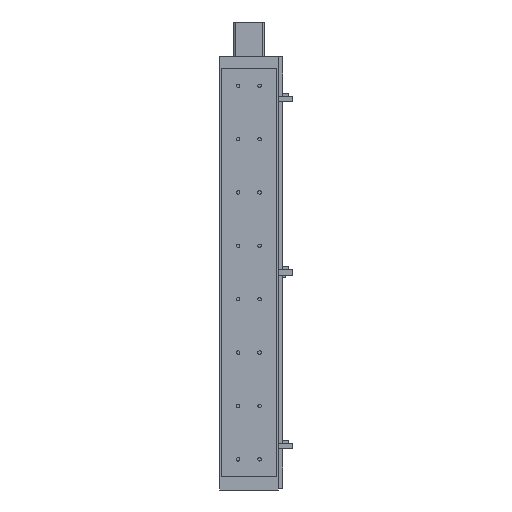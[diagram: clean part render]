
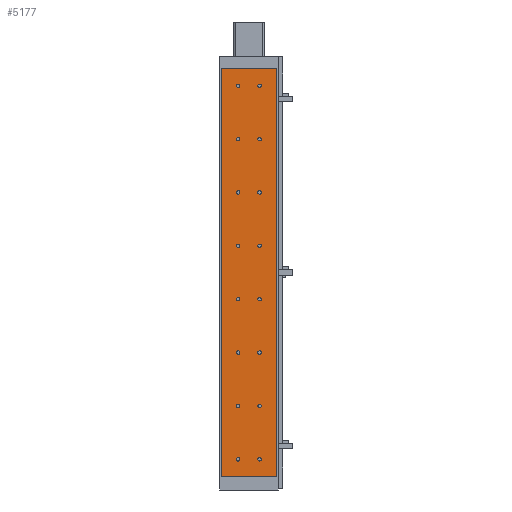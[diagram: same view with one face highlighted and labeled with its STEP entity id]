
A CAD part, front view. The second image highlights one B-rep face of the part: STEP entity #5177.
In plain terms, the highlighted planar face has unit normal (0, -1, 0).
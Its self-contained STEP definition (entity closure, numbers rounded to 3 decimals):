
#105=CARTESIAN_POINT('',(-23.25,0.,57.5));
#106=VERTEX_POINT('',#105);
#107=CARTESIAN_POINT('',(-20.,0.0,57.5));
#108=DIRECTION('',(0.0,1.0,0.0));
#109=DIRECTION('',(1.0,0.0,0.0));
#110=AXIS2_PLACEMENT_3D('',#107,#108,#109);
#111=CIRCLE('',#110,3.25);
#112=EDGE_CURVE('',#106,#106,#111,.T.);
#213=CARTESIAN_POINT('',(16.75,0.,57.5));
#214=VERTEX_POINT('',#213);
#215=CARTESIAN_POINT('',(20.,0.0,57.5));
#216=DIRECTION('',(0.0,1.0,0.0));
#217=DIRECTION('',(1.0,0.0,0.0));
#218=AXIS2_PLACEMENT_3D('',#215,#216,#217);
#219=CIRCLE('',#218,3.25);
#220=EDGE_CURVE('',#214,#214,#219,.T.);
#259=CARTESIAN_POINT('',(-23.25,0.,157.5));
#260=VERTEX_POINT('',#259);
#261=CARTESIAN_POINT('',(-20.,0.0,157.5));
#262=DIRECTION('',(0.0,1.0,0.0));
#263=DIRECTION('',(1.0,0.0,0.0));
#264=AXIS2_PLACEMENT_3D('',#261,#262,#263);
#265=CIRCLE('',#264,3.25);
#266=EDGE_CURVE('',#260,#260,#265,.T.);
#367=CARTESIAN_POINT('',(16.75,0.,157.5));
#368=VERTEX_POINT('',#367);
#369=CARTESIAN_POINT('',(20.,0.0,157.5));
#370=DIRECTION('',(0.0,1.0,0.0));
#371=DIRECTION('',(1.0,0.0,0.0));
#372=AXIS2_PLACEMENT_3D('',#369,#370,#371);
#373=CIRCLE('',#372,3.25);
#374=EDGE_CURVE('',#368,#368,#373,.T.);
#444=CARTESIAN_POINT('',(16.75,0.,757.5));
#445=VERTEX_POINT('',#444);
#446=CARTESIAN_POINT('',(20.,0.0,757.5));
#447=DIRECTION('',(0.0,1.0,0.0));
#448=DIRECTION('',(1.0,0.0,0.0));
#449=AXIS2_PLACEMENT_3D('',#446,#447,#448);
#450=CIRCLE('',#449,3.25);
#451=EDGE_CURVE('',#445,#445,#450,.T.);
#490=CARTESIAN_POINT('',(-23.25,0.,757.5));
#491=VERTEX_POINT('',#490);
#492=CARTESIAN_POINT('',(-20.,0.0,757.5));
#493=DIRECTION('',(0.0,1.0,0.0));
#494=DIRECTION('',(1.0,0.0,0.0));
#495=AXIS2_PLACEMENT_3D('',#492,#493,#494);
#496=CIRCLE('',#495,3.25);
#497=EDGE_CURVE('',#491,#491,#496,.T.);
#567=CARTESIAN_POINT('',(-23.25,0.,557.5));
#568=VERTEX_POINT('',#567);
#569=CARTESIAN_POINT('',(-20.,0.0,557.5));
#570=DIRECTION('',(0.0,1.0,0.0));
#571=DIRECTION('',(1.0,0.0,0.0));
#572=AXIS2_PLACEMENT_3D('',#569,#570,#571);
#573=CIRCLE('',#572,3.25);
#574=EDGE_CURVE('',#568,#568,#573,.T.);
#675=CARTESIAN_POINT('',(16.75,0.,557.5));
#676=VERTEX_POINT('',#675);
#677=CARTESIAN_POINT('',(20.,0.0,557.5));
#678=DIRECTION('',(0.0,1.0,0.0));
#679=DIRECTION('',(1.0,0.0,0.0));
#680=AXIS2_PLACEMENT_3D('',#677,#678,#679);
#681=CIRCLE('',#680,3.25);
#682=EDGE_CURVE('',#676,#676,#681,.T.);
#721=CARTESIAN_POINT('',(-23.25,0.,657.5));
#722=VERTEX_POINT('',#721);
#723=CARTESIAN_POINT('',(-20.,0.0,657.5));
#724=DIRECTION('',(0.0,1.0,0.0));
#725=DIRECTION('',(1.0,0.0,0.0));
#726=AXIS2_PLACEMENT_3D('',#723,#724,#725);
#727=CIRCLE('',#726,3.25);
#728=EDGE_CURVE('',#722,#722,#727,.T.);
#829=CARTESIAN_POINT('',(16.75,0.,657.5));
#830=VERTEX_POINT('',#829);
#831=CARTESIAN_POINT('',(20.,0.0,657.5));
#832=DIRECTION('',(0.0,1.0,0.0));
#833=DIRECTION('',(1.0,0.0,0.0));
#834=AXIS2_PLACEMENT_3D('',#831,#832,#833);
#835=CIRCLE('',#834,3.25);
#836=EDGE_CURVE('',#830,#830,#835,.T.);
#906=CARTESIAN_POINT('',(16.75,0.,257.5));
#907=VERTEX_POINT('',#906);
#908=CARTESIAN_POINT('',(20.,0.0,257.5));
#909=DIRECTION('',(0.0,1.0,0.0));
#910=DIRECTION('',(1.0,0.0,0.0));
#911=AXIS2_PLACEMENT_3D('',#908,#909,#910);
#912=CIRCLE('',#911,3.25);
#913=EDGE_CURVE('',#907,#907,#912,.T.);
#952=CARTESIAN_POINT('',(-23.25,0.,257.5));
#953=VERTEX_POINT('',#952);
#954=CARTESIAN_POINT('',(-20.,0.0,257.5));
#955=DIRECTION('',(0.0,1.0,0.0));
#956=DIRECTION('',(1.0,0.0,0.0));
#957=AXIS2_PLACEMENT_3D('',#954,#955,#956);
#958=CIRCLE('',#957,3.25);
#959=EDGE_CURVE('',#953,#953,#958,.T.);
#1060=CARTESIAN_POINT('',(16.75,0.,457.5));
#1061=VERTEX_POINT('',#1060);
#1062=CARTESIAN_POINT('',(20.,0.0,457.5));
#1063=DIRECTION('',(0.0,1.0,0.0));
#1064=DIRECTION('',(1.0,0.0,0.0));
#1065=AXIS2_PLACEMENT_3D('',#1062,#1063,#1064);
#1066=CIRCLE('',#1065,3.25);
#1067=EDGE_CURVE('',#1061,#1061,#1066,.T.);
#1137=CARTESIAN_POINT('',(-23.25,0.,457.5));
#1138=VERTEX_POINT('',#1137);
#1139=CARTESIAN_POINT('',(-20.,0.0,457.5));
#1140=DIRECTION('',(0.0,1.0,0.0));
#1141=DIRECTION('',(1.0,0.0,0.0));
#1142=AXIS2_PLACEMENT_3D('',#1139,#1140,#1141);
#1143=CIRCLE('',#1142,3.25);
#1144=EDGE_CURVE('',#1138,#1138,#1143,.T.);
#1214=CARTESIAN_POINT('',(16.75,0.,357.5));
#1215=VERTEX_POINT('',#1214);
#1216=CARTESIAN_POINT('',(20.,0.0,357.5));
#1217=DIRECTION('',(0.0,1.0,0.0));
#1218=DIRECTION('',(1.0,0.0,0.0));
#1219=AXIS2_PLACEMENT_3D('',#1216,#1217,#1218);
#1220=CIRCLE('',#1219,3.25);
#1221=EDGE_CURVE('',#1215,#1215,#1220,.T.);
#1291=CARTESIAN_POINT('',(-23.25,0.,357.5));
#1292=VERTEX_POINT('',#1291);
#1293=CARTESIAN_POINT('',(-20.,0.0,357.5));
#1294=DIRECTION('',(0.0,1.0,0.0));
#1295=DIRECTION('',(1.0,0.0,0.0));
#1296=AXIS2_PLACEMENT_3D('',#1293,#1294,#1295);
#1297=CIRCLE('',#1296,3.25);
#1298=EDGE_CURVE('',#1292,#1292,#1297,.T.);
#5050=CARTESIAN_POINT('',(52.,0.,25.));
#5051=VERTEX_POINT('',#5050);
#5058=CARTESIAN_POINT('',(-52.0,0.,25.));
#5059=VERTEX_POINT('',#5058);
#5060=CARTESIAN_POINT('',(-52.0,0.,25.));
#5061=DIRECTION('',(1.0,0.0,0.0));
#5062=VECTOR('',#5061,104.0);
#5063=LINE('',#5060,#5062);
#5064=EDGE_CURVE('',#5059,#5051,#5063,.T.);
#5081=CARTESIAN_POINT('',(-52.,0.,790.0));
#5082=VERTEX_POINT('',#5081);
#5083=CARTESIAN_POINT('',(-52.0,0.,25.));
#5084=DIRECTION('',(0.0,0.0,1.0));
#5085=VECTOR('',#5084,765.0);
#5086=LINE('',#5083,#5085);
#5087=EDGE_CURVE('',#5059,#5082,#5086,.T.);
#5106=CARTESIAN_POINT('',(52.0,0.,0.0));
#5107=DIRECTION('',(0.0,-1.0,0.0));
#5108=DIRECTION('',(0.0,0.0,-1.0));
#5109=AXIS2_PLACEMENT_3D('',#5106,#5107,#5108);
#5110=PLANE('',#5109);
#5111=ORIENTED_EDGE('',*,*,#5064,.T.);
#5112=CARTESIAN_POINT('',(52.,0.,790.0));
#5113=VERTEX_POINT('',#5112);
#5114=CARTESIAN_POINT('',(52.,0.,25.));
#5115=DIRECTION('',(0.0,0.0,1.0));
#5116=VECTOR('',#5115,765.0);
#5117=LINE('',#5114,#5116);
#5118=EDGE_CURVE('',#5051,#5113,#5117,.T.);
#5119=ORIENTED_EDGE('',*,*,#5118,.T.);
#5120=CARTESIAN_POINT('',(52.,0.,790.0));
#5121=DIRECTION('',(-1.0,0.0,0.0));
#5122=VECTOR('',#5121,104.);
#5123=LINE('',#5120,#5122);
#5124=EDGE_CURVE('',#5113,#5082,#5123,.T.);
#5125=ORIENTED_EDGE('',*,*,#5124,.T.);
#5126=ORIENTED_EDGE('',*,*,#5087,.F.);
#5127=EDGE_LOOP('',(#5111,#5119,#5125,#5126));
#5128=FACE_OUTER_BOUND('',#5127,.T.);
#5129=ORIENTED_EDGE('',*,*,#112,.T.);
#5130=EDGE_LOOP('',(#5129));
#5131=FACE_BOUND('',#5130,.T.);
#5132=ORIENTED_EDGE('',*,*,#220,.T.);
#5133=EDGE_LOOP('',(#5132));
#5134=FACE_BOUND('',#5133,.T.);
#5135=ORIENTED_EDGE('',*,*,#266,.T.);
#5136=EDGE_LOOP('',(#5135));
#5137=FACE_BOUND('',#5136,.T.);
#5138=ORIENTED_EDGE('',*,*,#374,.T.);
#5139=EDGE_LOOP('',(#5138));
#5140=FACE_BOUND('',#5139,.T.);
#5141=ORIENTED_EDGE('',*,*,#451,.T.);
#5142=EDGE_LOOP('',(#5141));
#5143=FACE_BOUND('',#5142,.T.);
#5144=ORIENTED_EDGE('',*,*,#497,.T.);
#5145=EDGE_LOOP('',(#5144));
#5146=FACE_BOUND('',#5145,.T.);
#5147=ORIENTED_EDGE('',*,*,#574,.T.);
#5148=EDGE_LOOP('',(#5147));
#5149=FACE_BOUND('',#5148,.T.);
#5150=ORIENTED_EDGE('',*,*,#682,.T.);
#5151=EDGE_LOOP('',(#5150));
#5152=FACE_BOUND('',#5151,.T.);
#5153=ORIENTED_EDGE('',*,*,#728,.T.);
#5154=EDGE_LOOP('',(#5153));
#5155=FACE_BOUND('',#5154,.T.);
#5156=ORIENTED_EDGE('',*,*,#836,.T.);
#5157=EDGE_LOOP('',(#5156));
#5158=FACE_BOUND('',#5157,.T.);
#5159=ORIENTED_EDGE('',*,*,#913,.T.);
#5160=EDGE_LOOP('',(#5159));
#5161=FACE_BOUND('',#5160,.T.);
#5162=ORIENTED_EDGE('',*,*,#959,.T.);
#5163=EDGE_LOOP('',(#5162));
#5164=FACE_BOUND('',#5163,.T.);
#5165=ORIENTED_EDGE('',*,*,#1067,.T.);
#5166=EDGE_LOOP('',(#5165));
#5167=FACE_BOUND('',#5166,.T.);
#5168=ORIENTED_EDGE('',*,*,#1144,.T.);
#5169=EDGE_LOOP('',(#5168));
#5170=FACE_BOUND('',#5169,.T.);
#5171=ORIENTED_EDGE('',*,*,#1221,.T.);
#5172=EDGE_LOOP('',(#5171));
#5173=FACE_BOUND('',#5172,.T.);
#5174=ORIENTED_EDGE('',*,*,#1298,.T.);
#5175=EDGE_LOOP('',(#5174));
#5176=FACE_BOUND('',#5175,.T.);
#5177=ADVANCED_FACE('',(#5128,#5131,#5134,#5137,#5140,#5143,#5146,#5149,#5152,#5155,#5158,#5161,#5164,#5167,#5170,#5173,#5176),#5110,.T.);
